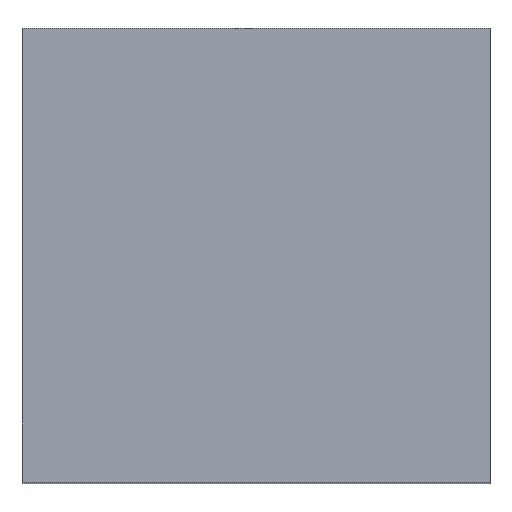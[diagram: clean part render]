
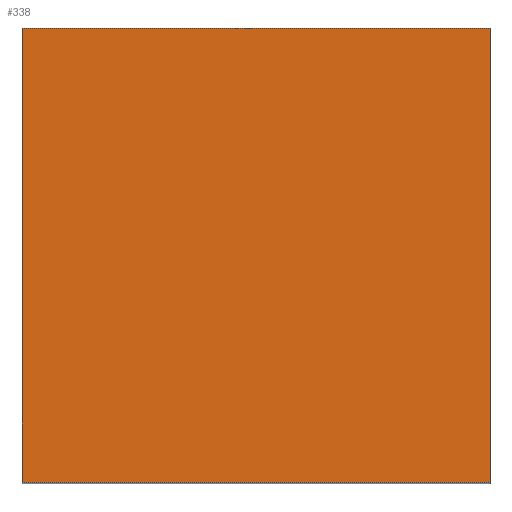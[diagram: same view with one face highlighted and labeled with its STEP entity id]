
A CAD part, top view. The second image highlights one B-rep face of the part: STEP entity #338.
In plain terms, the highlighted planar face has unit normal (0, 0, 1).
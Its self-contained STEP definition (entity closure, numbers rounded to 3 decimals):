
#24 = VERTEX_POINT('',#25);
#25 = CARTESIAN_POINT('',(32.59,28.99,-3.89));
#32 = PLANE('',#33);
#33 = AXIS2_PLACEMENT_3D('',#34,#35,#36);
#34 = CARTESIAN_POINT('',(32.59,28.99,-7.43));
#35 = DIRECTION('',(1.,0.,-0.));
#36 = DIRECTION('',(0.,0.,1.));
#44 = PLANE('',#45);
#45 = AXIS2_PLACEMENT_3D('',#46,#47,#48);
#46 = CARTESIAN_POINT('',(32.59,28.99,-7.43));
#47 = DIRECTION('',(-0.,1.,0.));
#48 = DIRECTION('',(0.,0.,1.));
#85 = VERTEX_POINT('',#86);
#86 = CARTESIAN_POINT('',(32.59,30.61,-3.89));
#100 = PLANE('',#101);
#101 = AXIS2_PLACEMENT_3D('',#102,#103,#104);
#102 = CARTESIAN_POINT('',(32.59,30.61,-7.43));
#103 = DIRECTION('',(-0.,1.,0.));
#104 = DIRECTION('',(0.,0.,1.));
#112 = EDGE_CURVE('',#24,#85,#113,.T.);
#113 = SURFACE_CURVE('',#114,(#118,#125),.PCURVE_S1.);
#114 = LINE('',#115,#116);
#115 = CARTESIAN_POINT('',(32.59,28.99,-3.89));
#116 = VECTOR('',#117,1.);
#117 = DIRECTION('',(-0.,1.,0.));
#118 = PCURVE('',#32,#119);
#119 = DEFINITIONAL_REPRESENTATION('',(#120),#124);
#120 = LINE('',#121,#122);
#121 = CARTESIAN_POINT('',(3.54,0.));
#122 = VECTOR('',#123,1.);
#123 = DIRECTION('',(0.,-1.));
#124 = ( GEOMETRIC_REPRESENTATION_CONTEXT(2) 
PARAMETRIC_REPRESENTATION_CONTEXT() REPRESENTATION_CONTEXT('2D SPACE',''
  ) );
#125 = PCURVE('',#126,#131);
#126 = PLANE('',#127);
#127 = AXIS2_PLACEMENT_3D('',#128,#129,#130);
#128 = CARTESIAN_POINT('',(32.59,28.99,-3.89));
#129 = DIRECTION('',(0.,0.,1.));
#130 = DIRECTION('',(1.,0.,-0.));
#131 = DEFINITIONAL_REPRESENTATION('',(#132),#136);
#132 = LINE('',#133,#134);
#133 = CARTESIAN_POINT('',(0.,0.));
#134 = VECTOR('',#135,1.);
#135 = DIRECTION('',(0.,1.));
#136 = ( GEOMETRIC_REPRESENTATION_CONTEXT(2) 
PARAMETRIC_REPRESENTATION_CONTEXT() REPRESENTATION_CONTEXT('2D SPACE',''
  ) );
#144 = VERTEX_POINT('',#145);
#145 = CARTESIAN_POINT('',(34.26,28.99,-3.89));
#152 = PLANE('',#153);
#153 = AXIS2_PLACEMENT_3D('',#154,#155,#156);
#154 = CARTESIAN_POINT('',(34.26,28.99,-7.43));
#155 = DIRECTION('',(1.,0.,-0.));
#156 = DIRECTION('',(0.,0.,1.));
#195 = VERTEX_POINT('',#196);
#196 = CARTESIAN_POINT('',(34.26,30.61,-3.89));
#217 = EDGE_CURVE('',#144,#195,#218,.T.);
#218 = SURFACE_CURVE('',#219,(#223,#230),.PCURVE_S1.);
#219 = LINE('',#220,#221);
#220 = CARTESIAN_POINT('',(34.26,28.99,-3.89));
#221 = VECTOR('',#222,1.);
#222 = DIRECTION('',(-0.,1.,0.));
#223 = PCURVE('',#152,#224);
#224 = DEFINITIONAL_REPRESENTATION('',(#225),#229);
#225 = LINE('',#226,#227);
#226 = CARTESIAN_POINT('',(3.54,0.));
#227 = VECTOR('',#228,1.);
#228 = DIRECTION('',(0.,-1.));
#229 = ( GEOMETRIC_REPRESENTATION_CONTEXT(2) 
PARAMETRIC_REPRESENTATION_CONTEXT() REPRESENTATION_CONTEXT('2D SPACE',''
  ) );
#230 = PCURVE('',#126,#231);
#231 = DEFINITIONAL_REPRESENTATION('',(#232),#236);
#232 = LINE('',#233,#234);
#233 = CARTESIAN_POINT('',(1.67,0.));
#234 = VECTOR('',#235,1.);
#235 = DIRECTION('',(0.,1.));
#236 = ( GEOMETRIC_REPRESENTATION_CONTEXT(2) 
PARAMETRIC_REPRESENTATION_CONTEXT() REPRESENTATION_CONTEXT('2D SPACE',''
  ) );
#263 = EDGE_CURVE('',#24,#144,#264,.T.);
#264 = SURFACE_CURVE('',#265,(#269,#276),.PCURVE_S1.);
#265 = LINE('',#266,#267);
#266 = CARTESIAN_POINT('',(32.59,28.99,-3.89));
#267 = VECTOR('',#268,1.);
#268 = DIRECTION('',(1.,0.,-0.));
#269 = PCURVE('',#44,#270);
#270 = DEFINITIONAL_REPRESENTATION('',(#271),#275);
#271 = LINE('',#272,#273);
#272 = CARTESIAN_POINT('',(3.54,0.));
#273 = VECTOR('',#274,1.);
#274 = DIRECTION('',(0.,1.));
#275 = ( GEOMETRIC_REPRESENTATION_CONTEXT(2) 
PARAMETRIC_REPRESENTATION_CONTEXT() REPRESENTATION_CONTEXT('2D SPACE',''
  ) );
#276 = PCURVE('',#126,#277);
#277 = DEFINITIONAL_REPRESENTATION('',(#278),#282);
#278 = LINE('',#279,#280);
#279 = CARTESIAN_POINT('',(0.,0.));
#280 = VECTOR('',#281,1.);
#281 = DIRECTION('',(1.,0.));
#282 = ( GEOMETRIC_REPRESENTATION_CONTEXT(2) 
PARAMETRIC_REPRESENTATION_CONTEXT() REPRESENTATION_CONTEXT('2D SPACE',''
  ) );
#310 = EDGE_CURVE('',#85,#195,#311,.T.);
#311 = SURFACE_CURVE('',#312,(#316,#323),.PCURVE_S1.);
#312 = LINE('',#313,#314);
#313 = CARTESIAN_POINT('',(32.59,30.61,-3.89));
#314 = VECTOR('',#315,1.);
#315 = DIRECTION('',(1.,0.,-0.));
#316 = PCURVE('',#100,#317);
#317 = DEFINITIONAL_REPRESENTATION('',(#318),#322);
#318 = LINE('',#319,#320);
#319 = CARTESIAN_POINT('',(3.54,0.));
#320 = VECTOR('',#321,1.);
#321 = DIRECTION('',(0.,1.));
#322 = ( GEOMETRIC_REPRESENTATION_CONTEXT(2) 
PARAMETRIC_REPRESENTATION_CONTEXT() REPRESENTATION_CONTEXT('2D SPACE',''
  ) );
#323 = PCURVE('',#126,#324);
#324 = DEFINITIONAL_REPRESENTATION('',(#325),#329);
#325 = LINE('',#326,#327);
#326 = CARTESIAN_POINT('',(0.,1.62));
#327 = VECTOR('',#328,1.);
#328 = DIRECTION('',(1.,0.));
#329 = ( GEOMETRIC_REPRESENTATION_CONTEXT(2) 
PARAMETRIC_REPRESENTATION_CONTEXT() REPRESENTATION_CONTEXT('2D SPACE',''
  ) );
#338 = ADVANCED_FACE('',(#339),#126,.T.);
#339 = FACE_BOUND('',#340,.T.);
#340 = EDGE_LOOP('',(#341,#342,#343,#344));
#341 = ORIENTED_EDGE('',*,*,#112,.F.);
#342 = ORIENTED_EDGE('',*,*,#263,.T.);
#343 = ORIENTED_EDGE('',*,*,#217,.T.);
#344 = ORIENTED_EDGE('',*,*,#310,.F.);
